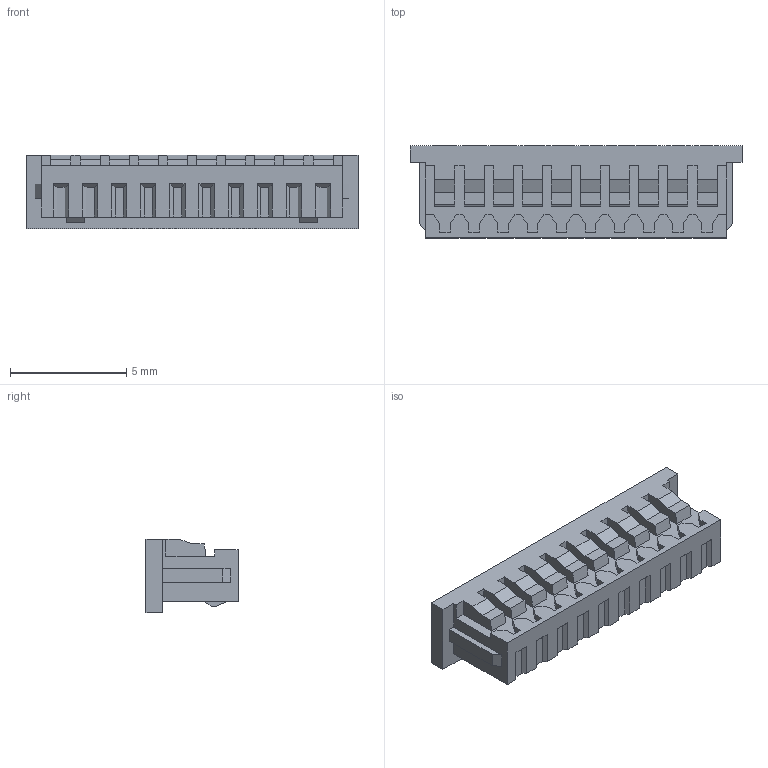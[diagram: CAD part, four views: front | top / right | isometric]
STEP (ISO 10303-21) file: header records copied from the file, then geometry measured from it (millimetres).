
FILE_DESCRIPTION((''),'2;1');
FILE_NAME('10114826-X0X10LFC','2019-09-05T',('KumarP'),('AFCI'),'CREO PARAMETRIC BY PTC INC, 2016130','CREO PARAMETRIC BY PTC INC, 2016130','');
FILE_SCHEMA(('CONFIG_CONTROL_DESIGN'));
Length unit declared in the file: millimetre
Products named in the file (1): 10114826-X0X10LFC
Bounding box: 14.25 x 3.95 x 3.15 mm (x, y, z)
Volume: 122 mm3; surface area: 257.7 mm2
Topology: 1 solids, 1 shells, 322 faces, 928 edges, 620 vertices
Faces by surface type: plane 320, cylinder 2
Entity records: 10390 total; most frequent: CARTESIAN_POINT 1870, ORIENTED_EDGE 1856, DIRECTION 1580, EDGE_CURVE 928, VECTOR 920, LINE 920, VERTEX_POINT 620, EDGE_LOOP 334
